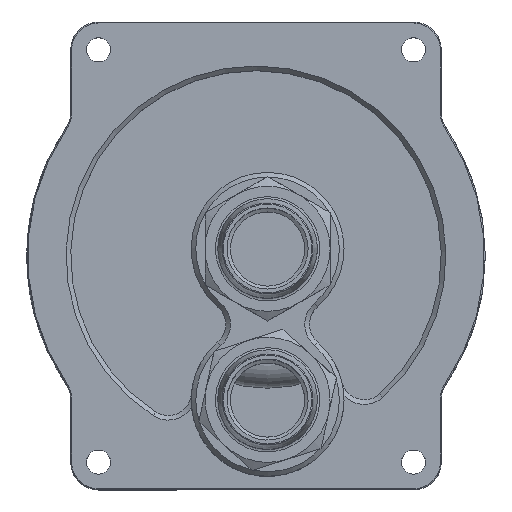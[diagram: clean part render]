
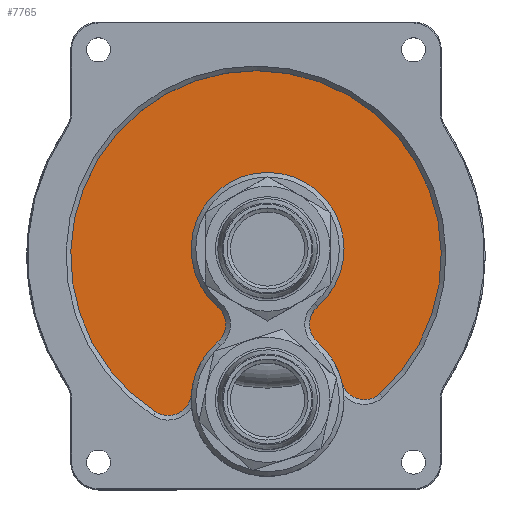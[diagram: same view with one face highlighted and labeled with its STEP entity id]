
A CAD part, top view. The second image highlights one B-rep face of the part: STEP entity #7765.
In plain terms, the highlighted planar face has unit normal (0, 0, 1).
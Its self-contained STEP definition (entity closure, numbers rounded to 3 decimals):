
#139 = CIRCLE ( 'NONE', #11464, 16.5 ) ;
#238 = DIRECTION ( 'NONE',  ( 0., 0., -1. ) ) ;
#449 = CARTESIAN_POINT ( 'NONE',  ( -2.5, 31.108, 7. ) ) ;
#490 = EDGE_CURVE ( 'NONE', #9513, #8015, #10742, .T. ) ;
#522 = FACE_OUTER_BOUND ( 'NONE', #10163, .T. ) ;
#665 = DIRECTION ( 'NONE',  ( 1., 0., 0. ) ) ;
#796 = VERTEX_POINT ( 'NONE', #13256 ) ;
#970 = ORIENTED_EDGE ( 'NONE', *, *, #6311, .T. ) ;
#1115 = DIRECTION ( 'NONE',  ( 0., 0., 1. ) ) ;
#1278 = DIRECTION ( 'NONE',  ( 1., 0., 0. ) ) ;
#1466 = EDGE_CURVE ( 'NONE', #10813, #9513, #3134, .T. ) ;
#1470 = DIRECTION ( 'NONE',  ( 0., 0., 1. ) ) ;
#1738 = EDGE_CURVE ( 'NONE', #15922, #1820, #12536, .T. ) ;
#1820 = VERTEX_POINT ( 'NONE', #11577 ) ;
#1999 = DIRECTION ( 'NONE',  ( 0., 0., 1. ) ) ;
#2138 = CARTESIAN_POINT ( 'NONE',  ( -16.516, 14.804, 7. ) ) ;
#2186 = ORIENTED_EDGE ( 'NONE', *, *, #6521, .T. ) ;
#2841 = DIRECTION ( 'NONE',  ( 1., 0., 0. ) ) ;
#3026 = DIRECTION ( 'NONE',  ( 1., 0., 0. ) ) ;
#3134 = CIRCLE ( 'NONE', #3218, 5. ) ;
#3155 = CARTESIAN_POINT ( 'NONE',  ( -13.256, 11.012, 7. ) ) ;
#3218 = AXIS2_PLACEMENT_3D ( 'NONE', #13255, #12036, #4222 ) ;
#3699 = DIRECTION ( 'NONE',  ( 1., 0., 0. ) ) ;
#3820 = CIRCLE ( 'NONE', #4437, 40. ) ;
#3887 = CIRCLE ( 'NONE', #12954, 5. ) ;
#4222 = DIRECTION ( 'NONE',  ( 1., 0., 0. ) ) ;
#4323 = CARTESIAN_POINT ( 'NONE',  ( 13.95, 29.825, 7. ) ) ;
#4437 = AXIS2_PLACEMENT_3D ( 'NONE', #13162, #1470, #2841 ) ;
#5160 = ORIENTED_EDGE ( 'NONE', *, *, #13477, .T. ) ;
#5955 = CARTESIAN_POINT ( 'NONE',  ( 8.256, 11.012, 7. ) ) ;
#6149 = CARTESIAN_POINT ( 'NONE',  ( -1.25, 15.554, 7. ) ) ;
#6311 = EDGE_CURVE ( 'NONE', #796, #15922, #139, .T. ) ;
#6415 = CIRCLE ( 'NONE', #13973, 16.5 ) ;
#6521 = EDGE_CURVE ( 'NONE', #8015, #10643, #3887, .T. ) ;
#6806 = DIRECTION ( 'NONE',  ( 1., 0., 0. ) ) ;
#7122 = AXIS2_PLACEMENT_3D ( 'NONE', #2138, #7255, #13317 ) ;
#7155 = AXIS2_PLACEMENT_3D ( 'NONE', #449, #11912, #3026 ) ;
#7255 = DIRECTION ( 'NONE',  ( 0., 0., 1. ) ) ;
#7286 = AXIS2_PLACEMENT_3D ( 'NONE', #9777, #1999, #13590 ) ;
#7515 = AXIS2_PLACEMENT_3D ( 'NONE', #6149, #1115, #3699 ) ;
#7765 = ADVANCED_FACE ( 'NONE', ( #522 ), #14994, .T. ) ;
#7816 = CARTESIAN_POINT ( 'NONE',  ( -2.5, -1.5, 7. ) ) ;
#7923 = CARTESIAN_POINT ( 'NONE',  ( -2.5, 31.108, 7. ) ) ;
#8015 = VERTEX_POINT ( 'NONE', #15562 ) ;
#8161 = ORIENTED_EDGE ( 'NONE', *, *, #1466, .T. ) ;
#8268 = DIRECTION ( 'NONE',  ( 0., 0., 1. ) ) ;
#8580 = CIRCLE ( 'NONE', #7122, 5. ) ;
#9455 = CARTESIAN_POINT ( 'NONE',  ( -18.534, 27.214, 7. ) ) ;
#9513 = VERTEX_POINT ( 'NONE', #4323 ) ;
#9777 = CARTESIAN_POINT ( 'NONE',  ( -23.393, 26.034, 7. ) ) ;
#9929 = ORIENTED_EDGE ( 'NONE', *, *, #1738, .T. ) ;
#9997 = CARTESIAN_POINT ( 'NONE',  ( 21.639, 33.641, 7. ) ) ;
#10163 = EDGE_LOOP ( 'NONE', ( #970, #9929, #5160, #8161, #12006, #2186, #12421, #14108 ) ) ;
#10507 = EDGE_CURVE ( 'NONE', #15984, #796, #8580, .T. ) ;
#10643 = VERTEX_POINT ( 'NONE', #5955 ) ;
#10742 = CIRCLE ( 'NONE', #7155, 16.5 ) ;
#10813 = VERTEX_POINT ( 'NONE', #9997 ) ;
#11464 = AXIS2_PLACEMENT_3D ( 'NONE', #7923, #14472, #6806 ) ;
#11577 = CARTESIAN_POINT ( 'NONE',  ( -26.735, 29.753, 7. ) ) ;
#11912 = DIRECTION ( 'NONE',  ( 0., 0., -1. ) ) ;
#12006 = ORIENTED_EDGE ( 'NONE', *, *, #490, .T. ) ;
#12036 = DIRECTION ( 'NONE',  ( 0., 0., 1. ) ) ;
#12191 = CARTESIAN_POINT ( 'NONE',  ( 11.515, 14.804, 7. ) ) ;
#12421 = ORIENTED_EDGE ( 'NONE', *, *, #14121, .T. ) ;
#12536 = CIRCLE ( 'NONE', #7286, 5. ) ;
#12954 = AXIS2_PLACEMENT_3D ( 'NONE', #12191, #8268, #665 ) ;
#13162 = CARTESIAN_POINT ( 'NONE',  ( 0., 0., 7. ) ) ;
#13255 = CARTESIAN_POINT ( 'NONE',  ( 18.935, 29.436, 7. ) ) ;
#13256 = CARTESIAN_POINT ( 'NONE',  ( -13.256, 18.595, 7. ) ) ;
#13317 = DIRECTION ( 'NONE',  ( 1., 0., 0. ) ) ;
#13477 = EDGE_CURVE ( 'NONE', #1820, #10813, #3820, .T. ) ;
#13590 = DIRECTION ( 'NONE',  ( 1., 0., 0. ) ) ;
#13973 = AXIS2_PLACEMENT_3D ( 'NONE', #7816, #238, #1278 ) ;
#14108 = ORIENTED_EDGE ( 'NONE', *, *, #10507, .T. ) ;
#14121 = EDGE_CURVE ( 'NONE', #10643, #15984, #6415, .T. ) ;
#14472 = DIRECTION ( 'NONE',  ( 0., 0., -1. ) ) ;
#14994 = PLANE ( 'NONE',  #7515 ) ;
#15562 = CARTESIAN_POINT ( 'NONE',  ( 8.256, 18.596, 7. ) ) ;
#15922 = VERTEX_POINT ( 'NONE', #9455 ) ;
#15984 = VERTEX_POINT ( 'NONE', #3155 ) ;
